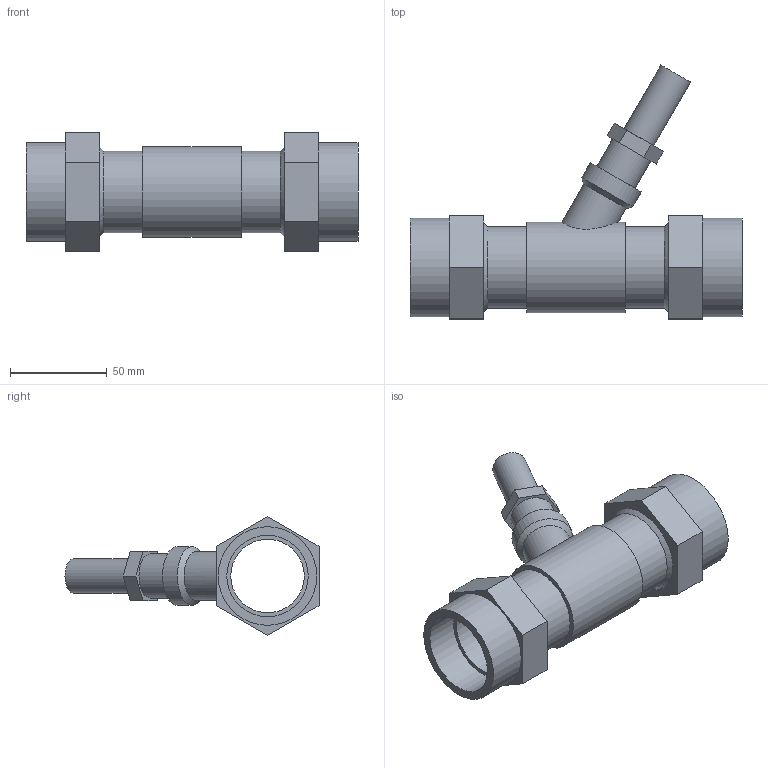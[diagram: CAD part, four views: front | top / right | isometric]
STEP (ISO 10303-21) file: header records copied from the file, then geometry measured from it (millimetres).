
FILE_DESCRIPTION(/* description */ ('VIC DIFFERENTIAL PRESSURE RELIEF VALVE SERIES 782 (CUP)','CAx-IF Rec.Pracs.---Representation and Presentation of Product Manufacturing Information (PMI)---4.0---2014-10-13'),/* implementation_level */ '2;1');
FILE_NAME(/* name */ 'C:\Users\kkamble\Desktop\New folder (12)\New folder\step\Victaulic_IPS_Valve Differential Pressure Relief_TA Series 782 (CUP)\Victaulic_IPS_Valve Differential Pressure Relief_TA Series 782 (CUP)_1.25 (32).stp',/* time_stamp */ '2020-10-13T18:45:31+05:00',/* author */ ('kkamble'),/* organization */ ('Victaulic'),/* preprocessor_version */ 'ST-DEVELOPER v17.2',/* originating_system */ 'Autodesk Inventor 2019',/* authorisation */ '');
FILE_SCHEMA (('AP242_MANAGED_MODEL_BASED_3D_ENGINEERING_MIM_LF { 1 0 10303 442 1 1 4 }'));
Length unit declared in the file: inch
Products named in the file (1): 782-01.25
Bounding box: 171.96 x 131.57 x 61.59 mm (x, y, z)
Volume: 153903.6 mm3; surface area: 59655.9 mm2
Topology: 1 solids, 1 shells, 47 faces, 115 edges, 82 vertices
Faces by surface type: plane 32, cylinder 12, cone 3
Full cylindrical faces by diameter (mm): 17.78 x1, 22.86 x1, 25.4 x1, 30.48 x1, 38.1 x1, 42.164 x4, 46.939 x1, 51.054 x2
Entity records: 1646 total; most frequent: CARTESIAN_POINT 308, DIRECTION 279, ORIENTED_EDGE 230, EDGE_CURVE 115, AXIS2_PLACEMENT_3D 105, VERTEX_POINT 82, LINE 69, VECTOR 69
